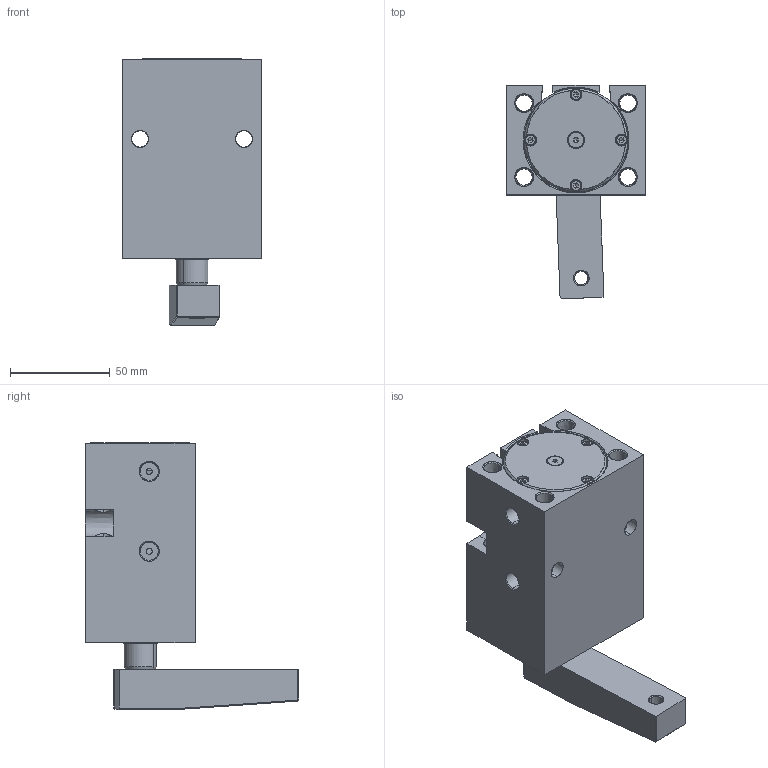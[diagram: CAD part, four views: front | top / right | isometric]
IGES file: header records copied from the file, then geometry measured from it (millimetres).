
Start section: SolidWorks IGES file using analytic representation for surfaces
Global section: file name: C:\Users\cagdas\Desktop\BGDK_40.IGS; native system: SolidWorks 2018; preprocessor: SolidWorks 2018; author: cagdas; date: 181210.112813; units: millimetre
Bounding box: 70 x 106.84 x 133.27 mm (x, y, z)
Surface area: 96217.3 mm2 (no closed solid volume)
Topology: 0 solids, 0 shells, 572 faces, 9462 edges, 9442 vertices
Faces by surface type: revolution 346, bspline 226
